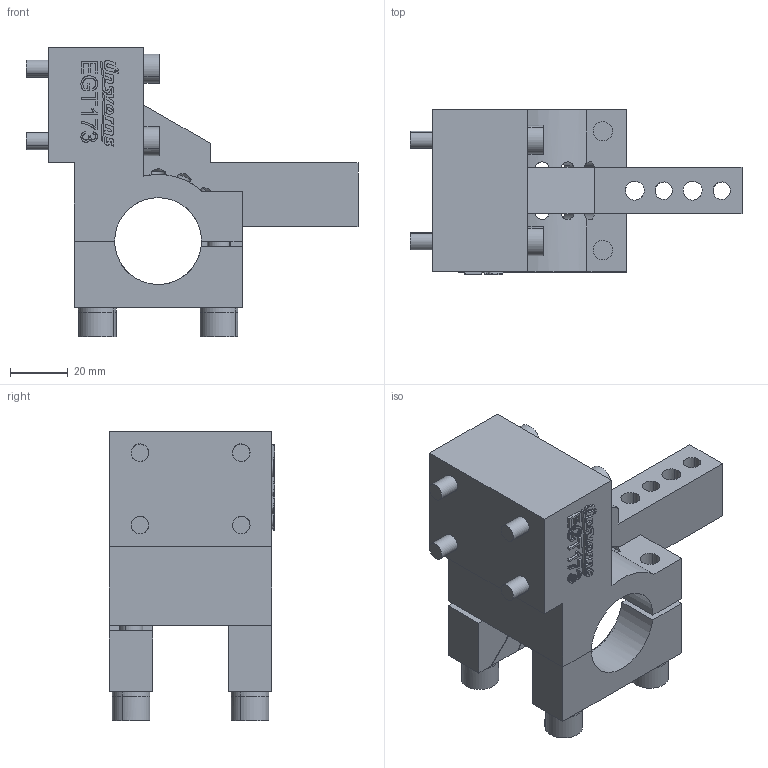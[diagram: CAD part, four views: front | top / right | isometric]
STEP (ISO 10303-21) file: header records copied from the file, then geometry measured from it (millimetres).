
FILE_DESCRIPTION(('CATIA V5 STEP Exchange'),'2;1');
FILE_NAME('C:\Users\User\Desktop\stp\EGT_173_.stp','2017-07-21T01:35:30+00:00',('none'),('none'),'CATIA Version 5 Release 21 GA (IN-10)','CATIA V5 STEP AP203','none');
FILE_SCHEMA(('CONFIG_CONTROL_DESIGN'));
Length unit declared in the file: millimetre
Products named in the file (1): EGT_173_
Bounding box: 114.6 x 57 x 100.1 mm (x, y, z)
Volume: 180542.3 mm3; surface area: 55651.5 mm2
Topology: 36 solids, 36 shells, 1090 faces, 3028 edges, 1997 vertices
Faces by surface type: plane 818, cylinder 142, extrusion 100, cone 30
Entity records: 36263 total; most frequent: CARTESIAN_POINT 9275, ORIENTED_EDGE 5996, DIRECTION 4630, EDGE_CURVE 2998, VECTOR 2457, LINE 2357, VERTEX_POINT 1997, AXIS2_PLACEMENT_3D 1207
